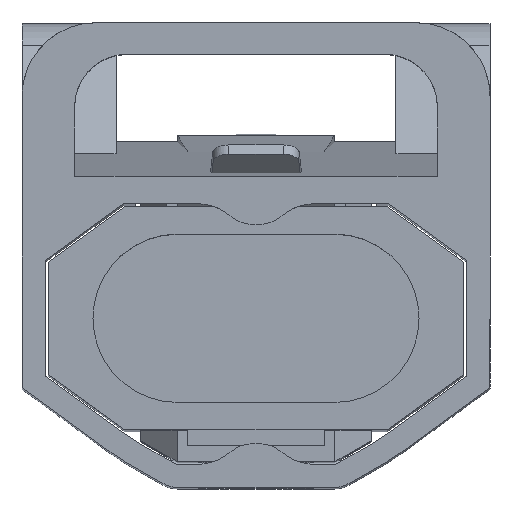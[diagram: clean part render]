
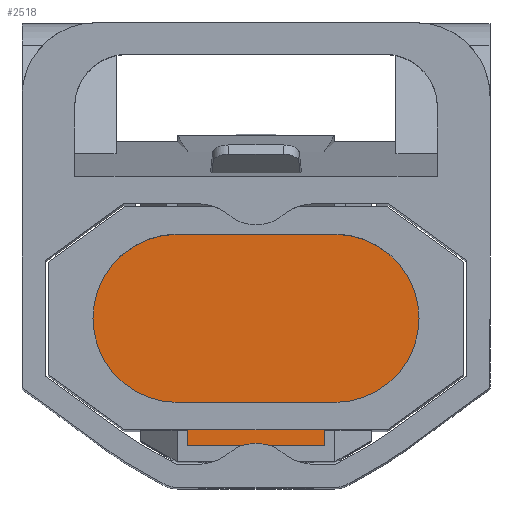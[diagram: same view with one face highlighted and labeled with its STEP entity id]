
A CAD part, top view. The second image highlights one B-rep face of the part: STEP entity #2518.
In plain terms, the highlighted planar face has unit normal (0, 0, 1).
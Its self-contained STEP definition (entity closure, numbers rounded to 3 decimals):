
#672=CARTESIAN_POINT('Vertex',(-4.5,10.6,-6.)) ;
#743=CARTESIAN_POINT('Vertex',(4.5,10.6,-6.)) ;
#782=CARTESIAN_POINT('Line Origine',(-2.25,10.6,-6.)) ;
#786=CARTESIAN_POINT('Vertex',(0.,10.6,-6.)) ;
#789=CARTESIAN_POINT('Line Origine',(2.25,10.6,-6.)) ;
#1859=CARTESIAN_POINT('Vertex',(-6.5,-10.6,-6.)) ;
#1862=CARTESIAN_POINT('Line Origine',(-9.5,-10.6,-6.)) ;
#1866=CARTESIAN_POINT('Vertex',(-12.5,-10.6,-6.)) ;
#1944=CARTESIAN_POINT('Line Origine',(-6.5,-11.35,-6.)) ;
#1948=CARTESIAN_POINT('Vertex',(-6.5,-12.1,-6.)) ;
#1972=CARTESIAN_POINT('Vertex',(6.5,-12.1,-6.)) ;
#1975=CARTESIAN_POINT('Line Origine',(0.,-12.1,-6.)) ;
#1992=CARTESIAN_POINT('Line Origine',(6.5,-11.35,-6.)) ;
#1996=CARTESIAN_POINT('Vertex',(6.5,-10.6,-6.)) ;
#2064=CARTESIAN_POINT('Vertex',(12.5,-10.6,-6.)) ;
#2067=CARTESIAN_POINT('Line Origine',(9.5,-10.6,-6.)) ;
#2415=CARTESIAN_POINT('Line Origine',(-16.125,-7.975,-6.)) ;
#2419=CARTESIAN_POINT('Vertex',(-19.75,-5.35,-6.)) ;
#2435=CARTESIAN_POINT('Axis2P3D Location',(0.,0.,-6.)) ;
#2440=CARTESIAN_POINT('Line Origine',(19.75,2.675,-6.)) ;
#2444=CARTESIAN_POINT('Vertex',(19.75,5.35,-6.)) ;
#2446=CARTESIAN_POINT('Vertex',(19.75,0.,-6.)) ;
#2449=CARTESIAN_POINT('Line Origine',(16.125,7.975,-6.)) ;
#2453=CARTESIAN_POINT('Vertex',(12.5,10.6,-6.)) ;
#2456=CARTESIAN_POINT('Line Origine',(8.5,10.6,-6.)) ;
#2461=CARTESIAN_POINT('Line Origine',(-8.5,10.6,-6.)) ;
#2465=CARTESIAN_POINT('Vertex',(-12.5,10.6,-6.)) ;
#2468=CARTESIAN_POINT('Line Origine',(-16.125,7.975,-6.)) ;
#2472=CARTESIAN_POINT('Vertex',(-19.75,5.35,-6.)) ;
#2475=CARTESIAN_POINT('Line Origine',(-19.75,2.675,-6.)) ;
#2479=CARTESIAN_POINT('Vertex',(-19.75,0.,-6.)) ;
#2482=CARTESIAN_POINT('Line Origine',(-19.75,-2.675,-6.)) ;
#2487=CARTESIAN_POINT('Line Origine',(16.125,-7.975,-6.)) ;
#2491=CARTESIAN_POINT('Vertex',(19.75,-5.35,-6.)) ;
#2494=CARTESIAN_POINT('Line Origine',(19.75,-2.675,-6.)) ;
#783=DIRECTION('Vector Direction',(1.,0.,0.)) ;
#790=DIRECTION('Vector Direction',(1.,0.,0.)) ;
#1863=DIRECTION('Vector Direction',(1.,0.,0.)) ;
#1945=DIRECTION('Vector Direction',(0.,1.,0.)) ;
#1976=DIRECTION('Vector Direction',(1.,0.,0.)) ;
#1993=DIRECTION('Vector Direction',(0.,-1.,0.)) ;
#2068=DIRECTION('Vector Direction',(1.,0.,0.)) ;
#2416=DIRECTION('Vector Direction',(0.81,-0.587,0.)) ;
#2436=DIRECTION('Axis2P3D Direction',(0.,0.,-1.)) ;
#2437=DIRECTION('Axis2P3D XDirection',(1.,0.,0.)) ;
#2441=DIRECTION('Vector Direction',(0.,1.,0.)) ;
#2450=DIRECTION('Vector Direction',(-0.81,0.587,0.)) ;
#2457=DIRECTION('Vector Direction',(-1.,0.,0.)) ;
#2462=DIRECTION('Vector Direction',(-1.,0.,0.)) ;
#2469=DIRECTION('Vector Direction',(-0.81,-0.587,0.)) ;
#2476=DIRECTION('Vector Direction',(0.,-1.,0.)) ;
#2483=DIRECTION('Vector Direction',(0.,-1.,0.)) ;
#2488=DIRECTION('Vector Direction',(0.81,0.587,0.)) ;
#2495=DIRECTION('Vector Direction',(0.,1.,0.)) ;
#2438=AXIS2_PLACEMENT_3D('Plane Axis2P3D',#2435,#2436,#2437) ;
#2500=ORIENTED_EDGE('',*,*,#2448,.F.) ;
#2501=ORIENTED_EDGE('',*,*,#2455,.F.) ;
#2502=ORIENTED_EDGE('',*,*,#2460,.F.) ;
#2503=ORIENTED_EDGE('',*,*,#793,.F.) ;
#2504=ORIENTED_EDGE('',*,*,#788,.F.) ;
#2505=ORIENTED_EDGE('',*,*,#2467,.F.) ;
#2506=ORIENTED_EDGE('',*,*,#2474,.F.) ;
#2507=ORIENTED_EDGE('',*,*,#2481,.F.) ;
#2508=ORIENTED_EDGE('',*,*,#2486,.F.) ;
#2509=ORIENTED_EDGE('',*,*,#2421,.F.) ;
#2510=ORIENTED_EDGE('',*,*,#1868,.F.) ;
#2511=ORIENTED_EDGE('',*,*,#1950,.F.) ;
#2512=ORIENTED_EDGE('',*,*,#1979,.T.) ;
#2513=ORIENTED_EDGE('',*,*,#1998,.F.) ;
#2514=ORIENTED_EDGE('',*,*,#2071,.F.) ;
#2515=ORIENTED_EDGE('',*,*,#2493,.F.) ;
#2516=ORIENTED_EDGE('',*,*,#2498,.F.) ;
#784=VECTOR('Line Direction',#783,1.) ;
#791=VECTOR('Line Direction',#790,1.) ;
#1864=VECTOR('Line Direction',#1863,1.) ;
#1946=VECTOR('Line Direction',#1945,1.) ;
#1977=VECTOR('Line Direction',#1976,1.) ;
#1994=VECTOR('Line Direction',#1993,1.) ;
#2069=VECTOR('Line Direction',#2068,1.) ;
#2417=VECTOR('Line Direction',#2416,1.) ;
#2442=VECTOR('Line Direction',#2441,1.) ;
#2451=VECTOR('Line Direction',#2450,1.) ;
#2458=VECTOR('Line Direction',#2457,1.) ;
#2463=VECTOR('Line Direction',#2462,1.) ;
#2470=VECTOR('Line Direction',#2469,1.) ;
#2477=VECTOR('Line Direction',#2476,1.) ;
#2484=VECTOR('Line Direction',#2483,1.) ;
#2489=VECTOR('Line Direction',#2488,1.) ;
#2496=VECTOR('Line Direction',#2495,1.) ;
#2518=ADVANCED_FACE('Nitecore Body 2',(#2517),#2439,.F.) ;
#788=EDGE_CURVE('',#673,#787,#785,.T.) ;
#793=EDGE_CURVE('',#787,#744,#792,.T.) ;
#1868=EDGE_CURVE('',#1860,#1867,#1865,.F.) ;
#1950=EDGE_CURVE('',#1949,#1860,#1947,.T.) ;
#1979=EDGE_CURVE('',#1949,#1973,#1978,.T.) ;
#1998=EDGE_CURVE('',#1997,#1973,#1995,.T.) ;
#2071=EDGE_CURVE('',#2065,#1997,#2070,.F.) ;
#2421=EDGE_CURVE('',#1867,#2420,#2418,.F.) ;
#2448=EDGE_CURVE('',#2445,#2447,#2443,.F.) ;
#2455=EDGE_CURVE('',#2454,#2445,#2452,.F.) ;
#2460=EDGE_CURVE('',#744,#2454,#2459,.F.) ;
#2467=EDGE_CURVE('',#2466,#673,#2464,.F.) ;
#2474=EDGE_CURVE('',#2473,#2466,#2471,.F.) ;
#2481=EDGE_CURVE('',#2480,#2473,#2478,.F.) ;
#2486=EDGE_CURVE('',#2420,#2480,#2485,.F.) ;
#2493=EDGE_CURVE('',#2492,#2065,#2490,.F.) ;
#2498=EDGE_CURVE('',#2447,#2492,#2497,.F.) ;
#2499=EDGE_LOOP('',(#2500,#2501,#2502,#2503,#2504,#2505,#2506,#2507,#2508,#2509,#2510,#2511,#2512,#2513,#2514,#2515,#2516)) ;
#2517=FACE_OUTER_BOUND('',#2499,.T.) ;
#785=LINE('Line',#782,#784) ;
#792=LINE('Line',#789,#791) ;
#1865=LINE('Line',#1862,#1864) ;
#1947=LINE('Line',#1944,#1946) ;
#1978=LINE('Line',#1975,#1977) ;
#1995=LINE('Line',#1992,#1994) ;
#2070=LINE('Line',#2067,#2069) ;
#2418=LINE('Line',#2415,#2417) ;
#2443=LINE('Line',#2440,#2442) ;
#2452=LINE('Line',#2449,#2451) ;
#2459=LINE('Line',#2456,#2458) ;
#2464=LINE('Line',#2461,#2463) ;
#2471=LINE('Line',#2468,#2470) ;
#2478=LINE('Line',#2475,#2477) ;
#2485=LINE('Line',#2482,#2484) ;
#2490=LINE('Line',#2487,#2489) ;
#2497=LINE('Line',#2494,#2496) ;
#2439=PLANE('Plane',#2438) ;
#673=VERTEX_POINT('',#672) ;
#744=VERTEX_POINT('',#743) ;
#787=VERTEX_POINT('',#786) ;
#1860=VERTEX_POINT('',#1859) ;
#1867=VERTEX_POINT('',#1866) ;
#1949=VERTEX_POINT('',#1948) ;
#1973=VERTEX_POINT('',#1972) ;
#1997=VERTEX_POINT('',#1996) ;
#2065=VERTEX_POINT('',#2064) ;
#2420=VERTEX_POINT('',#2419) ;
#2445=VERTEX_POINT('',#2444) ;
#2447=VERTEX_POINT('',#2446) ;
#2454=VERTEX_POINT('',#2453) ;
#2466=VERTEX_POINT('',#2465) ;
#2473=VERTEX_POINT('',#2472) ;
#2480=VERTEX_POINT('',#2479) ;
#2492=VERTEX_POINT('',#2491) ;
